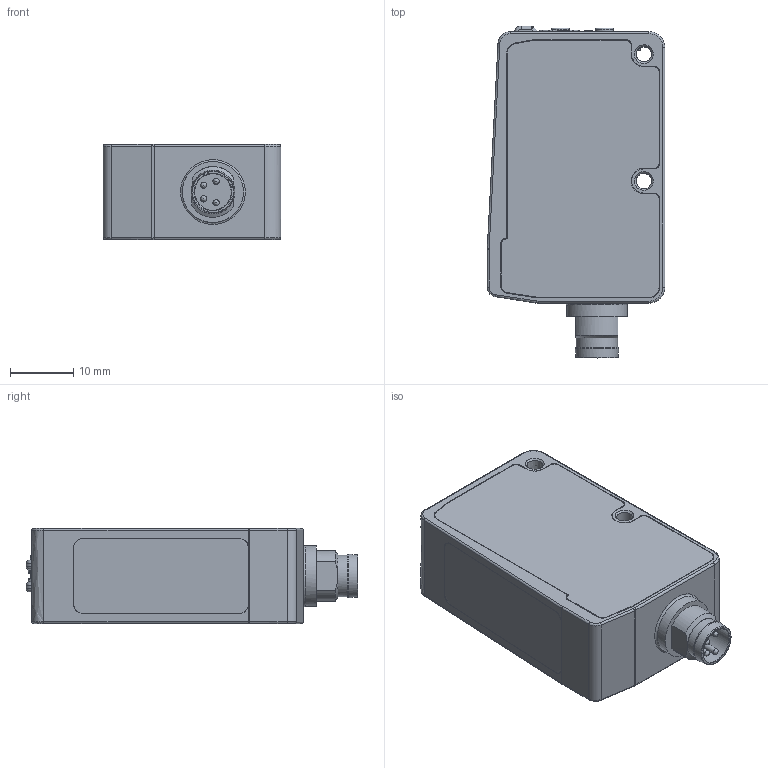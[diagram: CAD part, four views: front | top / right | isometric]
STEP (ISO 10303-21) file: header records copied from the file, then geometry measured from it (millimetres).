
FILE_DESCRIPTION(/* description */ (''),/* implementation_level */ '2;1');
FILE_NAME(/* name */ 'DSD-0787.stp',/* time_stamp */ '2020-09-22T17:08:33+02:00',/* author */ (''),/* organization */ (''),/* preprocessor_version */ 'ST-DEVELOPER v16.7',/* originating_system */ 'SIEMENS PLM Software NX 12.0',/* authorisation */ '');
FILE_SCHEMA (('AUTOMOTIVE_DESIGN { 1 0 10303 214 3 1 1 1 }'));
Length unit declared in the file: millimetre
Products named in the file (1): MBra1EA089BB28km
Bounding box: 28 x 52.35 x 15 mm (x, y, z)
Volume: 17503 mm3; surface area: 5188.6 mm2
Topology: 1 solids, 1 shells, 274 faces, 688 edges, 438 vertices
Faces by surface type: bspline 274
Entity records: 10370 total; most frequent: CARTESIAN_POINT 5866, ORIENTED_EDGE 1282, EDGE_CURVE 641, VERTEX_POINT 437, EDGE_LOOP 344, B_SPLINE_CURVE_WITH_KNOTS 323, ADVANCED_FACE 273, FACE_OUTER_BOUND 215
